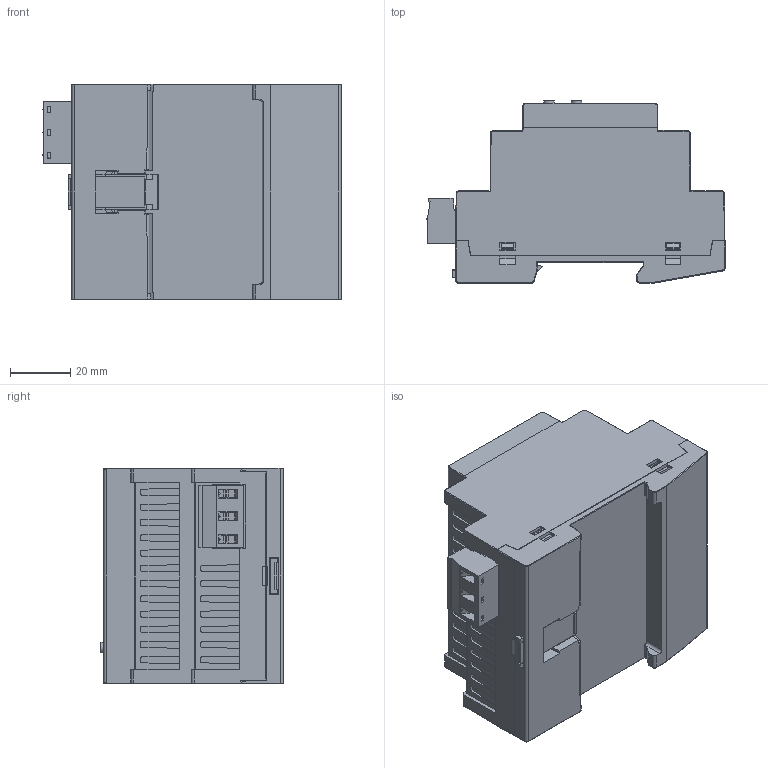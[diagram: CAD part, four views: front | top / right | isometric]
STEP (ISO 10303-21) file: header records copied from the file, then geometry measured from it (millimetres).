
FILE_DESCRIPTION(/* description */ (''),/* implementation_level */ '2;1');
FILE_NAME(/* name */ 'KNX_PowerSupply_365.stp',/* time_stamp */ '2020-10-29T14:47:05+01:00',/* author */ (''),/* organization */ (''),/* preprocessor_version */ 'ST-DEVELOPER v18.1',/* originating_system */ 'Autodesk Inventor 2021',/* authorisation */ '');
FILE_SCHEMA (('AUTOMOTIVE_DESIGN { 1 0 10303 214 3 1 1 }'));
Length unit declared in the file: millimetre
Products named in the file (1): KNX_PowerSupply_365
Bounding box: 99.31 x 60.65 x 71.8 mm (x, y, z)
Volume: 293904.4 mm3; surface area: 36467.3 mm2
Topology: 1 solids, 12 shells, 1320 faces, 3510 edges, 2252 vertices
Faces by surface type: plane 943, cylinder 292, sphere 31, torus 26, cone 24, bspline 4
Full cylindrical faces by diameter (mm): 3 x3, 3.5 x2, 3.7 x3, 3.8 x5
Entity records: 42016 total; most frequent: CARTESIAN_POINT 7542, ORIENTED_EDGE 6982, DIRECTION 6702, EDGE_CURVE 3491, LINE 2790, VECTOR 2790, VERTEX_POINT 2252, AXIS2_PLACEMENT_3D 1956
